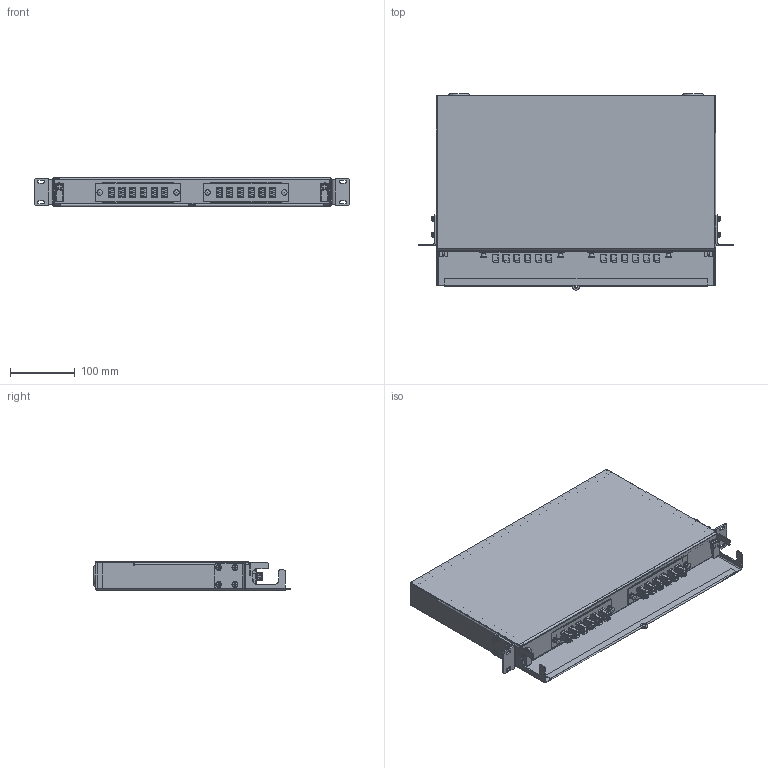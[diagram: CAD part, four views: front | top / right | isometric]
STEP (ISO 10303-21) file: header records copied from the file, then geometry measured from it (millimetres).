
FILE_DESCRIPTION(/* description */ ('STEP AP242','CAx-IF Rec.Pracs.---Representation and Presentation of Product Manufacturing Information (PMI)---4.0---2014-10-13','CAx-IF Rec.Pracs.---3D Tessellated Geometry---0.4---2014-09-14','2;1'),/* implementation_level */ '2;1');
FILE_NAME(/* name */ '67a66bdfc4720940fe5816c4',/* time_stamp */ '2025-02-07T20:24:01Z',/* author */ (''),/* organization */ (''),/* preprocessor_version */ 'ST-DEVELOPER v20',/* originating_system */ 'ONSHAPE BY PTC INC, 1.193',/* authorisation */ ' ');
FILE_SCHEMA (('AP242_MANAGED_MODEL_BASED_3D_ENGINEERING_MIM_LF { 1 0 10303 442 1 1 4 }'));
Length unit declared in the file: metre
Products named in the file (45): CD-448 - Rev A - Manta Fiber Patch Pane, Rack Mount, 1RU, Pre-install
ed 12-Fiber LC Adapter Plates; LC Duplex Adapter Plate <1>; LC Duplex <6>; User Library-Fiber Optic LC Adapters; LC Duplex <4>; LC Duplex <3>; LC Duplex <7>; LC Duplex; Mini Snap Latch <2>; Grommet - Mini Snap Latch; Plunger - Mini Snap Latch; Mini Snap Latch <1>; LC Duplex <2>; LC Duplex <5>; AD-177 - Manta Fiber Patch Pane, Rack Mount, 1RU <1>; Spring lock washer A4; Spring lock washer A5; Top Cover; Plain washer normal grade A M4; PH Pan head screw M4x0.70 x 8; Plain washer normal grade A M5; Grommet; PH Pan head screw M5x0.80 x 10; Plain washer normal grade A M6; Rack Mount Bracket; Housing; Tray; Swell Latch <1>; Handle - 19-81-10; Shaft - 19-81-10; Small Nut - 19-81-10; Bushing - 19-81-10; Pin - 19-81-10; Swell Latch <2>; LC Duplex Adapter Plate <2>
Assembly tree (97 placements, depth 4):
  CD-448 - Rev A - Manta Fiber Patch Pane, Rack Mount, 1RU, Pre-install
ed 12-Fiber LC Adapter Plates
    LC Duplex Adapter Plate <1>
      LC Duplex <6>
        User Library-Fiber Optic LC Adapters
      LC Duplex <4>
        User Library-Fiber Optic LC Adapters
      LC Duplex <3>
        User Library-Fiber Optic LC Adapters
      LC Duplex <7>
        User Library-Fiber Optic LC Adapters
      LC Duplex
      Mini Snap Latch <2>
        Grommet - Mini Snap Latch
        Plunger - Mini Snap Latch
      Mini Snap Latch <1>
        Grommet - Mini Snap Latch
        Plunger - Mini Snap Latch
      LC Duplex <2>
        User Library-Fiber Optic LC Adapters
      LC Duplex <5>
        User Library-Fiber Optic LC Adapters
    AD-177 - Manta Fiber Patch Pane, Rack Mount, 1RU <1>
      Spring lock washer A4  x8
      Spring lock washer A5  x4
      Top Cover
      Plain washer normal grade A M4  x8
      PH Pan head screw M4x0.70 x 8  x8
      Plain washer normal grade A M5  x4
      Grommet
      PH Pan head screw M5x0.80 x 10  x4
      Plain washer normal grade A M6
      Rack Mount Bracket
      Housing
      Tray
      Grommet
      Swell Latch <1>
        Handle - 19-81-10
        Shaft - 19-81-10
        Small Nut - 19-81-10
        Bushing - 19-81-10
        Pin - 19-81-10
      Swell Latch <2>
        Small Nut - 19-81-10
        Handle - 19-81-10
        Pin - 19-81-10
        Bushing - 19-81-10
        Shaft - 19-81-10
      Rack Mount Bracket
    LC Duplex Adapter Plate <2>
      LC Duplex <2>
        User Library-Fiber Optic LC Adapters
      LC Duplex
      LC Duplex <3>
        User Library-Fiber Optic LC Adapters
      Mini Snap Latch <2>
        Grommet - Mini Snap Latch
        Plunger - Mini Snap Latch
      LC Duplex <7>
        User Library-Fiber Optic LC Adapters
      LC Duplex <5>
Bounding box: 485 x 302 x 43.5 mm (x, y, z)
Volume: 681482.8 mm3; surface area: 916901.2 mm2
Topology: 76 solids, 76 shells, 4752 faces, 13002 edges, 8456 vertices
Faces by surface type: plane 3614, cylinder 770, bspline 204, cone 110, sphere 28, torus 26
Full cylindrical faces by diameter (mm): 1.27 x24, 1.956 x4, 1.981 x2, 2.037 x4, 2.108 x2, 2.184 x8, 3.3 x8, 3.454 x2, 3.6 x8, 3.81 x12, 3.937 x4, 4 x8, 4.2 x8, 4.3 x2, 4.5 x8, 4.55 x4, 5 x8, 5.5 x1, 5.588 x4, 5.842 x4, 6.4 x4, 8 x8, 8.382 x8, 8.6 x2, 8.712 x2, 9 x8, 9.5 x4, 9.6 x4, 10 x4, 10.1 x2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
Entity records: 45463 total; most frequent: CARTESIAN_POINT 8460, DIRECTION 7314, ORIENTED_EDGE 7076, EDGE_CURVE 3538, AXIS2_PLACEMENT_3D 2498, VERTEX_POINT 2339, LINE 2318, VECTOR 2318
